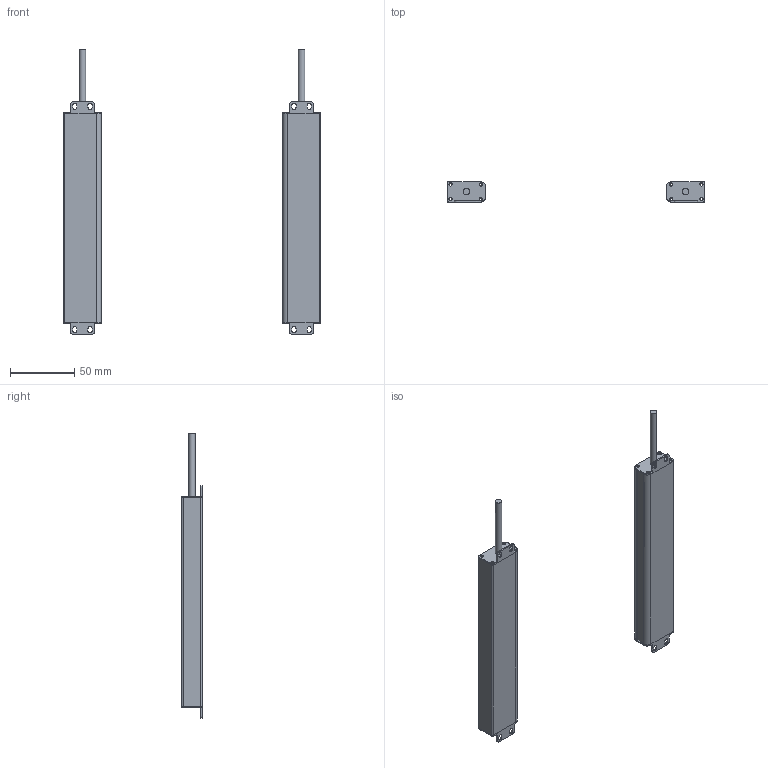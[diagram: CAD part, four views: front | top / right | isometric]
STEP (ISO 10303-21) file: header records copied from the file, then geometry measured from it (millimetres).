
FILE_DESCRIPTION(/* description */ (''),/* implementation_level */ '2;1');
FILE_NAME(/* name */ '1610（16X30w).stp',/* time_stamp */ '2020-10-26T11:07:56+08:00',/* author */ (''),/* organization */ (''),/* preprocessor_version */ 'ST-DEVELOPER v16',/* originating_system */ 'SIEMENS PLM Software NX 10.0',/* authorisation */ '');
FILE_SCHEMA (('AP203_CONFIGURATION_CONTROLLED_3D_DESIGN_OF_MECHANICAL_PARTS_AND_ASSEMBLIES_MIM_LF { 1 0 10303 403 2 1 2}'));
Length unit declared in the file: millimetre
Products named in the file (1): Admi0CD0C014p9qf
Bounding box: 200 x 16 x 221.5 mm (x, y, z)
Volume: 49920.4 mm3; surface area: 74603.7 mm2
Topology: 10 solids, 10 shells, 296 faces, 830 edges, 554 vertices
Faces by surface type: plane 160, cylinder 136
Full cylindrical faces by diameter (mm): 5 x2
Entity records: 9760 total; most frequent: DIRECTION 1692, CARTESIAN_POINT 1675, ORIENTED_EDGE 1652, EDGE_CURVE 826, AXIS2_PLACEMENT_3D 569, LINE 554, VECTOR 554, VERTEX_POINT 552
